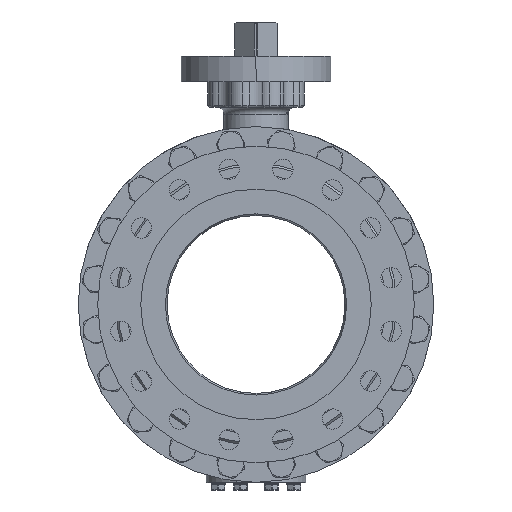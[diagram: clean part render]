
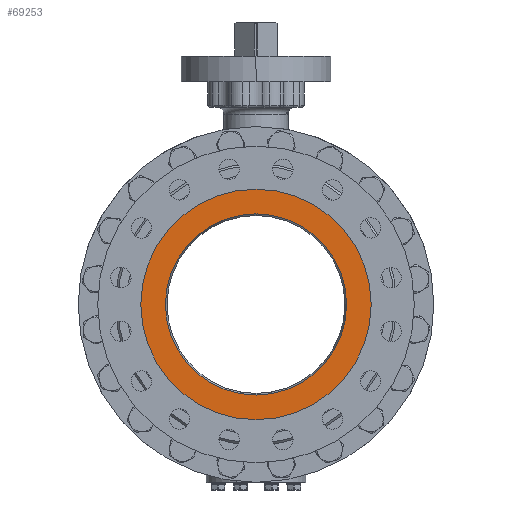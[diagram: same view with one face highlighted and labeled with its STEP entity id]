
A CAD part, left-side view. The second image highlights one B-rep face of the part: STEP entity #69253.
In plain terms, the highlighted planar face has unit normal (-1, 0, 0).
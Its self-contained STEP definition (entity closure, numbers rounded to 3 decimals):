
#3411=CARTESIAN_POINT('',(-284.,0.,0.));
#3412=DIRECTION('',(1.,0.,0.));
#3413=DIRECTION('',(0.,0.,1.));
#3414=AXIS2_PLACEMENT_3D('',#3411,#3412,#3413);
#3416=CARTESIAN_POINT('',(-284.,0.,0.));
#3417=DIRECTION('',(-1.,0.,0.));
#3418=DIRECTION('',(0.,0.,1.));
#3419=AXIS2_PLACEMENT_3D('',#3416,#3417,#3418);
#3421=CARTESIAN_POINT('',(-284.,0.,0.));
#3422=DIRECTION('',(1.,0.,0.));
#3423=DIRECTION('',(0.,0.,1.));
#3424=AXIS2_PLACEMENT_3D('',#3421,#3422,#3423);
#3426=CARTESIAN_POINT('',(-284.,0.,0.));
#3427=DIRECTION('',(-1.,0.,0.));
#3428=DIRECTION('',(0.,0.,1.));
#3429=AXIS2_PLACEMENT_3D('',#3426,#3427,#3428);
#58616=CARTESIAN_POINT('',(-284.,0.,127.3));
#58618=VERTEX_POINT('',#58616);
#58624=CARTESIAN_POINT('',(-284.,0.,-127.3));
#58626=VERTEX_POINT('',#58624);
#58775=CARTESIAN_POINT('',(-284.,0.,161.95));
#58777=VERTEX_POINT('',#58775);
#58779=CARTESIAN_POINT('',(-284.,0.,-161.95));
#58781=VERTEX_POINT('',#58779);
#69238=CARTESIAN_POINT('',(-284.,0.,0.));
#69239=DIRECTION('',(-1.,0.,0.));
#69240=DIRECTION('',(0.,0.,-1.));
#69241=AXIS2_PLACEMENT_3D('',#69238,#69239,#69240);
#69242=PLANE('',#69241);
#69243=ORIENTED_EDGE('',*,*,#69231,.F.);
#69244=ORIENTED_EDGE('',*,*,#69220,.T.);
#69245=EDGE_LOOP('',(#69243,#69244));
#69246=FACE_OUTER_BOUND('',#69245,.F.);
#69248=ORIENTED_EDGE('',*,*,#69247,.F.);
#69250=ORIENTED_EDGE('',*,*,#69249,.T.);
#69251=EDGE_LOOP('',(#69248,#69250));
#69252=FACE_BOUND('',#69251,.F.);
#69253=ADVANCED_FACE('',(#69246,#69252),#69242,.T.);
#3415=CIRCLE('',#3414,161.95);
#3420=CIRCLE('',#3419,161.95);
#3425=CIRCLE('',#3424,127.3);
#3430=CIRCLE('',#3429,127.3);
#69220=EDGE_CURVE('',#58777,#58781,#3415,.T.);
#69231=EDGE_CURVE('',#58777,#58781,#3420,.T.);
#69247=EDGE_CURVE('',#58618,#58626,#3425,.T.);
#69249=EDGE_CURVE('',#58618,#58626,#3430,.T.);
